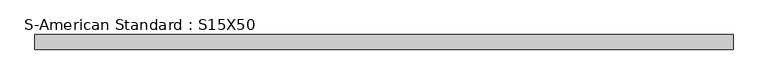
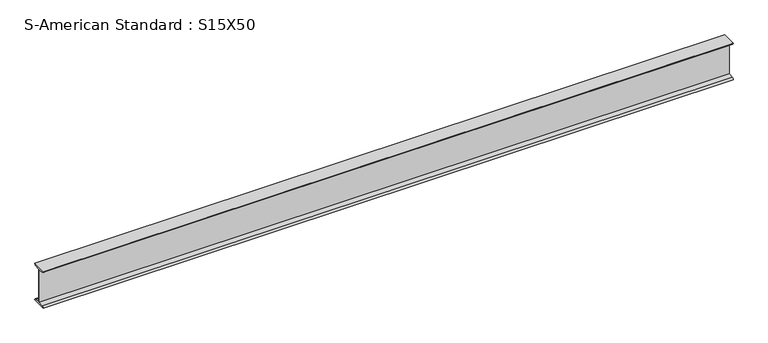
"""IFC4 building model written with IfcOpenShell, lengths in millimetres: beam geometry, S-American Standard : S15X50."""

from ifc_helpers import new_model, si_unit, point, frame, frame_2d, origin, place, context, project, spatial, polyline, circle_curve, trimmed, segment, composite_curve, outline, extrude, source, transform, mapped, element, save


def s_american_standard_s15x50_c199a0a1(model_context):
    return source(origin(), model_context, "Body", "SweptSolid", [
        extrude(outline(composite_curve([segment(polyline([(-71.628, 190.5), (71.628, 190.5)]), True, "CONTINUOUS"), segment(trimmed(circle_curve(frame_2d((55.8292, 190.5)), 15.7988), [point((71.628, 190.5))], [point((55.8292, 174.7012))], False, "CARTESIAN"), True, "CONTINUOUS"), segment(polyline([(55.8292, 174.7012), (6.985, 166.9650387), (6.985, -166.9650387), (55.8292, -174.7012)]), True, "CONTINUOUS"), segment(trimmed(circle_curve(frame_2d((55.8292, -190.5)), 15.7988), [point((55.8292, -174.7012))], [point((71.628, -190.5))], False, "CARTESIAN"), True, "CONTINUOUS"), segment(polyline([(71.628, -190.5), (-71.628, -190.5)]), True, "CONTINUOUS"), segment(trimmed(circle_curve(frame_2d((-55.8292, -190.5)), 15.7988), [point((-71.628, -190.5))], [point((-55.8292, -174.7012))], False, "CARTESIAN"), True, "CONTINUOUS"), segment(polyline([(-55.8292, -174.7012), (-6.985, -166.9650387), (-6.985, 166.9650387), (-55.8292, 174.7012)]), True, "CONTINUOUS"), segment(trimmed(circle_curve(frame_2d((-55.8292, 190.5)), 15.7988), [point((-55.8292, 174.7012))], [point((-71.628, 190.5))], False, "CARTESIAN"), True, "CONTINUOUS")], self_intersect=False)), frame((-3403.4371522, 0.0, 0.0), z_axis=(1.0, 0.0, 0.0), x_axis=(0.0, 1.0, 0.0)), (0.0, 0.0, 1.0), 6826.2123501),
    ])


if __name__ == "__main__":
    model = new_model("IFC4")
    model_context = context("Model", 3, world=origin())
    ifc_project = project(units=[si_unit("LENGTHUNIT", "METRE", prefix="MILLI")], contexts=[model_context])
    site = spatial("IfcSite", under=ifc_project)
    building = spatial("IfcBuilding", under=site)
    placement = place(None, origin())
    s_american_standard_s15x50_shape = s_american_standard_s15x50_c199a0a1(model_context)
    element("IfcBeam", 1, ObjectType="S-American Standard : S15X50", at=placement, inside=building, context=model_context, shape_type="MappedRepresentation", body=[
        mapped(s_american_standard_s15x50_shape, transform((0.0, 0.0, 0.0), x_axis=(1.0, 0.0, 0.0), y_axis=(0.0, 1.0, 0.0), z_axis=(0.0, 0.0, 1.0))),
    ])
    save(model, "model.ifc")
